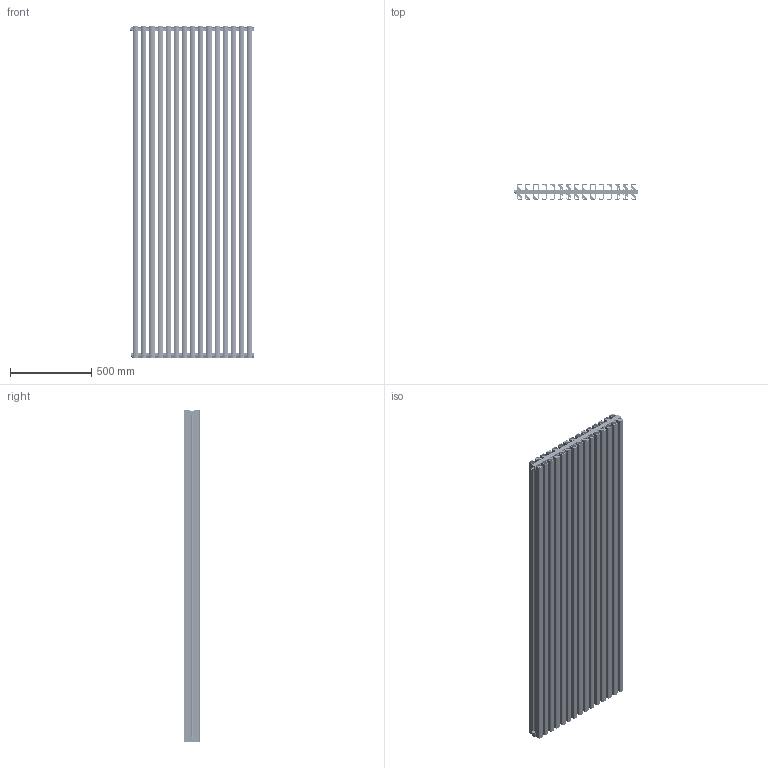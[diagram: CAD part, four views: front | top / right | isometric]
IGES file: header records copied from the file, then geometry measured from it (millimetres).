
Start section: SolidWorks IGES file using analytic representation for surfaces
Global section: file name: S:\RicercaSviluppo\01_DISEGNI\2_DISEGNI\02_ELEMENTI\39_TONALE\39_99_RICHIESTE CLIENTI\39_99_DRL\22-07-24\TONALE 2000_15.IGS; native system: SolidWorks 2024; preprocessor: SolidWorks 2024; author: massimo; date: 240722.113121; units: millimetre
Bounding box: 766.3 x 95 x 2039.3 mm (x, y, z)
Surface area: 22061726.5 mm2 (no closed solid volume)
Topology: 0 solids, 0 shells, 8749 faces, 106292 edges, 106112 vertices
Faces by surface type: revolution 4614, bspline 4135
